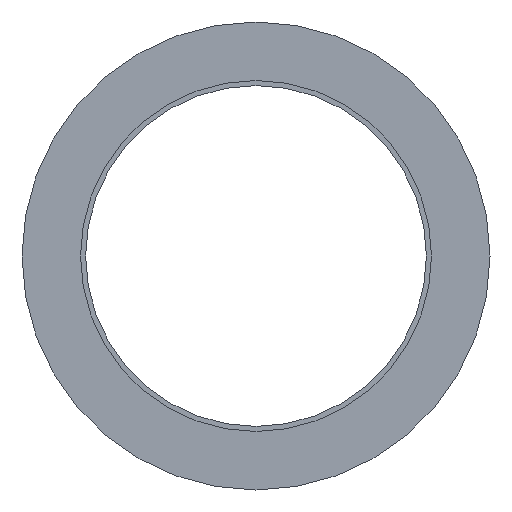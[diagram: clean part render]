
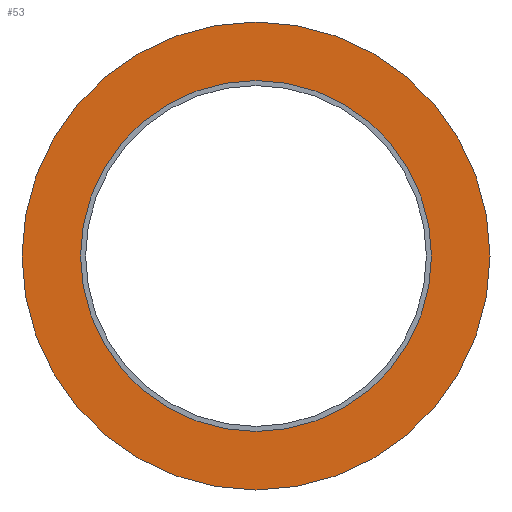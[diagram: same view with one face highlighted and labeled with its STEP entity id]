
A CAD part, left-side view. The second image highlights one B-rep face of the part: STEP entity #53.
In plain terms, the highlighted planar face has unit normal (-1, 0, 0).
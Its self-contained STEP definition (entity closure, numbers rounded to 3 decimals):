
#40=PLANE('',#213);
#53=ADVANCED_FACE('',(#84,#85),#40,.F.);
#84=FACE_BOUND('',#112,.T.);
#85=FACE_BOUND('',#113,.T.);
#112=EDGE_LOOP('',(#140));
#113=EDGE_LOOP('',(#141));
#140=ORIENTED_EDGE('',*,*,#172,.F.);
#141=ORIENTED_EDGE('',*,*,#171,.T.);
#157=VERTEX_POINT('',#309);
#158=VERTEX_POINT('',#312);
#171=EDGE_CURVE('',#157,#157,#185,.T.);
#172=EDGE_CURVE('',#158,#158,#186,.T.);
#185=CIRCLE('',#210,27.59);
#186=CIRCLE('',#212,20.69);
#210=AXIS2_PLACEMENT_3D('',#308,#261,#262);
#212=AXIS2_PLACEMENT_3D('',#311,#265,#266);
#213=AXIS2_PLACEMENT_3D('',#313,#267,#268);
#261=DIRECTION('',(-1.,0.,0.));
#262=DIRECTION('',(0.,0.,1.));
#265=DIRECTION('',(-1.,0.,0.));
#266=DIRECTION('',(0.,0.,1.));
#267=DIRECTION('',(1.,0.,0.));
#268=DIRECTION('',(0.,0.,-1.));
#308=CARTESIAN_POINT('',(0.,-0.09,0.));
#309=CARTESIAN_POINT('',(0.,-0.09,27.59));
#311=CARTESIAN_POINT('',(0.,-0.09,0.));
#312=CARTESIAN_POINT('',(0.,-0.09,20.69));
#313=CARTESIAN_POINT('',(0.,27.5,0.));
